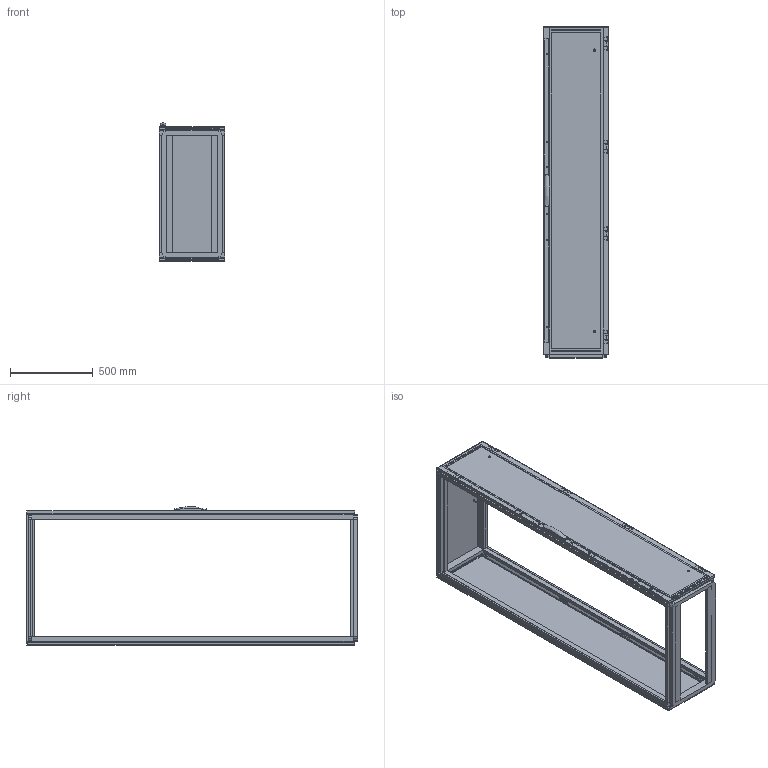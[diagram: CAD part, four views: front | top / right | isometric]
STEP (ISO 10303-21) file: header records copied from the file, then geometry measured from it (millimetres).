
FILE_DESCRIPTION( ( 'STEP AP214' ), '1' );
FILE_NAME( 'p:/temp/worker_141/temp/exporttempdir_3848_315_oIyiO/format_0/MCS20048R5(0).stp', '2021-03-15T21:33:43', ( 'License CC BY-ND 4.0' ), ( 'CADENAS' ), ' ', 'PARTsolutions', ' ' );
FILE_SCHEMA( ( 'AUTOMOTIVE_DESIGN { 1 0 10303 214 1 1 1 1 }' ) );
Length unit declared in the file: millimetre
Products named in the file (11): MCS20048R5(0); _MCS20048R5_Frame; _CRPK04(0)_Rear Panel Mounting Kit; _CRP2004R5(0)_Rear Panel; _DNMK01(0)_Rod catches; _DNMK01(0)_Hinge; _DN2004R5(0)_Plain door; _LSSDXXXX(0)_Lock; _LSSD2000(0)_Espagnolette Top; _LSSD2000(0)_Espagnolette Bottom; _CCR048R5(0)_Roof plate
Assembly tree (23 placements, depth 2):
  MCS20048R5(0)
    _MCS20048R5_Frame
    _CRPK04(0)_Rear Panel Mounting Kit  x8
    _CRP2004R5(0)_Rear Panel
    _DNMK01(0)_Rod catches  x4
    _DNMK01(0)_Hinge  x4
    _DN2004R5(0)_Plain door
    _LSSDXXXX(0)_Lock
    _LSSD2000(0)_Espagnolette Top
    _LSSD2000(0)_Espagnolette Bottom
    _CCR048R5(0)_Roof plate
Bounding box: 399 x 2006 x 834.9 mm (x, y, z)
Volume: 20096136.9 mm3; surface area: 6902882.8 mm2
Topology: 23 solids, 23 shells, 1027 faces, 2681 edges, 1759 vertices
Faces by surface type: plane 852, cylinder 116, cone 58, torus 1
Full cylindrical faces by diameter (mm): 5 x20, 5.2 x2, 6 x6, 7 x6, 7.4 x4, 8 x16, 9 x2, 10 x12, 14 x4
Entity records: 27232 total; most frequent: CARTESIAN_POINT 4059, ORIENTED_EDGE 3530, DIRECTION 3450, EDGE_CURVE 1765, LINE 1498, VECTOR 1498, VERTEX_POINT 1205, AXIS2_PLACEMENT_3D 976
